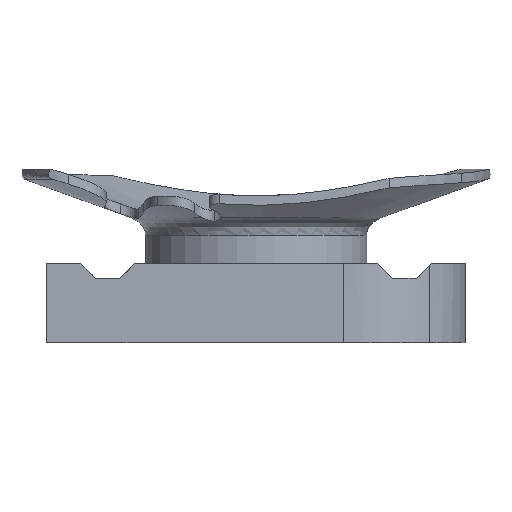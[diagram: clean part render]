
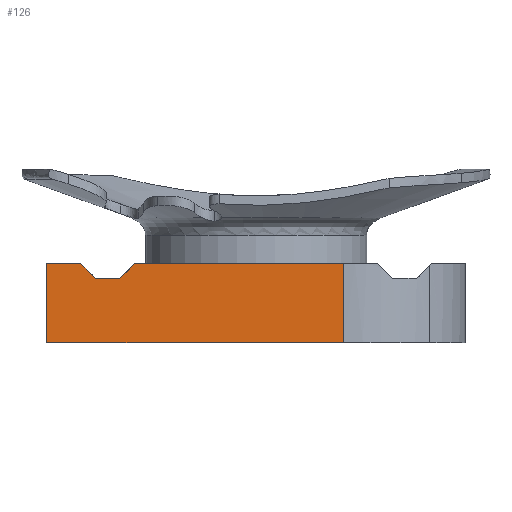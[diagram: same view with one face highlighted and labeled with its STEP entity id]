
A CAD part, front view. The second image highlights one B-rep face of the part: STEP entity #126.
In plain terms, the highlighted planar face has unit normal (0, -1, 0).
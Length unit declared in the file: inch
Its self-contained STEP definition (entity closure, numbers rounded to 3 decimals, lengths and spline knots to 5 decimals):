
#126=ADVANCED_FACE('',(#305),#306,.T.);
#305=FACE_OUTER_BOUND('',#570,.T.);
#306=PLANE('',#571);
#570=EDGE_LOOP('',(#1307,#1308,#1309,#1310,#1311,#1312,#1313,#1314));
#571=AXIS2_PLACEMENT_3D('',#1315,#1316,#1317);
#1307=ORIENTED_EDGE('',*,*,#1877,.T.);
#1308=ORIENTED_EDGE('',*,*,#1878,.T.);
#1309=ORIENTED_EDGE('',*,*,#1879,.T.);
#1310=ORIENTED_EDGE('',*,*,#1880,.F.);
#1311=ORIENTED_EDGE('',*,*,#1881,.T.);
#1312=ORIENTED_EDGE('',*,*,#1882,.T.);
#1313=ORIENTED_EDGE('',*,*,#1874,.F.);
#1314=ORIENTED_EDGE('',*,*,#1883,.F.);
#1315=CARTESIAN_POINT('',(0.0,0.,0.25591));
#1316=DIRECTION('',(0.0,-1.0,0.0));
#1317=DIRECTION('',(0.0,0.0,-1.0));
#1874=EDGE_CURVE('',#2192,#2194,#2195,.T.);
#1877=EDGE_CURVE('',#2198,#2199,#2200,.T.);
#1878=EDGE_CURVE('',#2199,#2201,#2202,.T.);
#1879=EDGE_CURVE('',#2201,#2203,#2204,.T.);
#1880=EDGE_CURVE('',#2205,#2203,#2206,.T.);
#1881=EDGE_CURVE('',#2205,#2207,#2208,.T.);
#1882=EDGE_CURVE('',#2207,#2194,#2209,.T.);
#1883=EDGE_CURVE('',#2198,#2192,#2210,.T.);
#2192=VERTEX_POINT('',#2898);
#2194=VERTEX_POINT('',#2900);
#2195=LINE('',#2901,#2902);
#2198=VERTEX_POINT('',#2905);
#2199=VERTEX_POINT('',#2906);
#2200=LINE('',#2907,#2908);
#2201=VERTEX_POINT('',#2909);
#2202=LINE('',#2910,#2911);
#2203=VERTEX_POINT('',#2912);
#2204=LINE('',#2913,#2914);
#2205=VERTEX_POINT('',#2915);
#2206=LINE('',#2916,#2917);
#2207=VERTEX_POINT('',#2918);
#2208=LINE('',#2919,#2920);
#2209=LINE('',#2921,#2922);
#2210=LINE('',#2923,#2924);
#2898=CARTESIAN_POINT('',(0.96063,0.,0.25591));
#2900=CARTESIAN_POINT('',(0.96063,0.,0.));
#2901=CARTESIAN_POINT('',(0.96063,0.,0.25591));
#2902=VECTOR('',#3826,0.3937);
#2905=CARTESIAN_POINT('',(0.28346,0.,0.25591));
#2906=CARTESIAN_POINT('',(0.23622,0.,0.20866));
#2907=CARTESIAN_POINT('',(0.18898,0.,0.16142));
#2908=VECTOR('',#3830,0.3937);
#2909=CARTESIAN_POINT('',(0.15748,0.,0.20866));
#2910=CARTESIAN_POINT('',(0.07874,0.,0.20866));
#2911=VECTOR('',#3831,0.3937);
#2912=CARTESIAN_POINT('',(0.11024,0.,0.25591));
#2913=CARTESIAN_POINT('',(0.08268,0.,0.28346));
#2914=VECTOR('',#3832,0.3937);
#2915=CARTESIAN_POINT('',(0.0,0.,0.25591));
#2916=CARTESIAN_POINT('',(0.0,0.,0.25591));
#2917=VECTOR('',#3833,0.3937);
#2918=CARTESIAN_POINT('',(0.0,0.,0.));
#2919=CARTESIAN_POINT('',(0.0,0.,0.25591));
#2920=VECTOR('',#3834,0.3937);
#2921=CARTESIAN_POINT('',(0.0,0.,0.));
#2922=VECTOR('',#3835,0.3937);
#2923=CARTESIAN_POINT('',(0.0,0.,0.25591));
#2924=VECTOR('',#3836,0.3937);
#3826=DIRECTION('',(0.0,0.0,-1.0));
#3830=DIRECTION('',(-0.707,-0.0,-0.707));
#3831=DIRECTION('',(-1.0,-0.0,0.));
#3832=DIRECTION('',(-0.707,0.0,0.707));
#3833=DIRECTION('',(1.0,0.0,0.0));
#3834=DIRECTION('',(0.0,0.0,-1.0));
#3835=DIRECTION('',(1.0,0.0,0.0));
#3836=DIRECTION('',(1.0,0.0,0.0));
